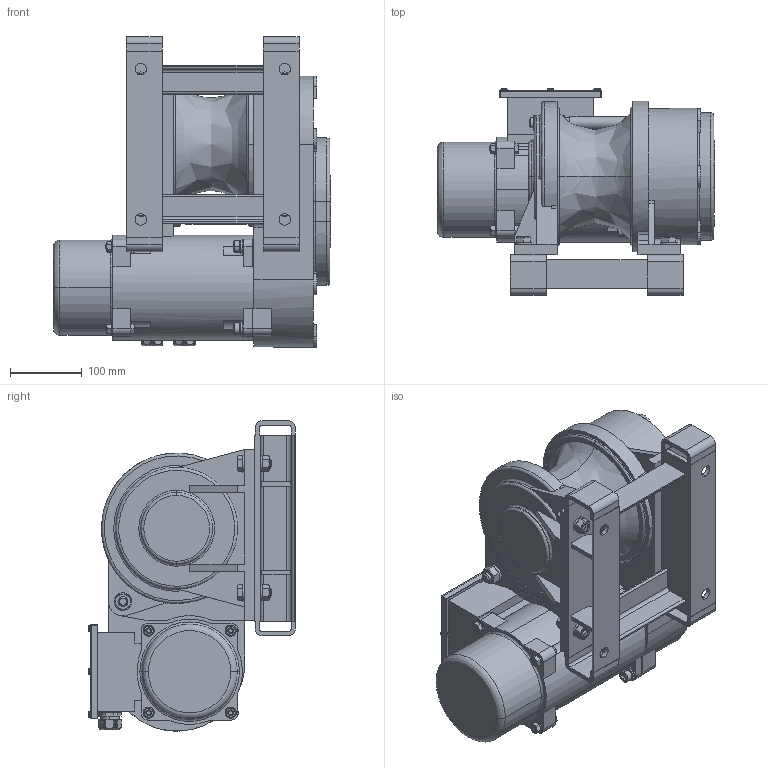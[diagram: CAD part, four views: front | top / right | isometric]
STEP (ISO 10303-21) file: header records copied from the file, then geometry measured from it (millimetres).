
FILE_DESCRIPTION( (''), '2;1');
FILE_NAME ('BMW-303-ED.stp','2023-05-12T16:52:53',(''),(''),'spGate 19.8.2 (****-****-****-****)','','');
FILE_SCHEMA (('AUTOMOTIVE_DESIGN'));
Length unit declared in the file: millimetre
Products named in the file (2): Assembly; BMW-303-ED-prt0
Assembly tree (1 placements, depth 2):
  Assembly
    BMW-303-ED-prt0
Bounding box: 387 x 290.2 x 433.3 mm (x, y, z)
Volume: 15525932.8 mm3; surface area: 1038382.7 mm2
Topology: 1 solids, 1 shells, 2018 faces, 5126 edges, 3203 vertices
Faces by surface type: plane 1259, cylinder 509, bspline 242, sphere 8
Entity records: 104320 total; most frequent: CARTESIAN_POINT 16483, ORIENTED_EDGE 10164, DIRECTION 9486, COLOUR_RGB 7101, PRESENTATION_STYLE_ASSIGNMENT 7101, STYLED_ITEM 7101, EDGE_CURVE 5082, DRAUGHTING_PRE_DEFINED_CURVE_FONT 5082
